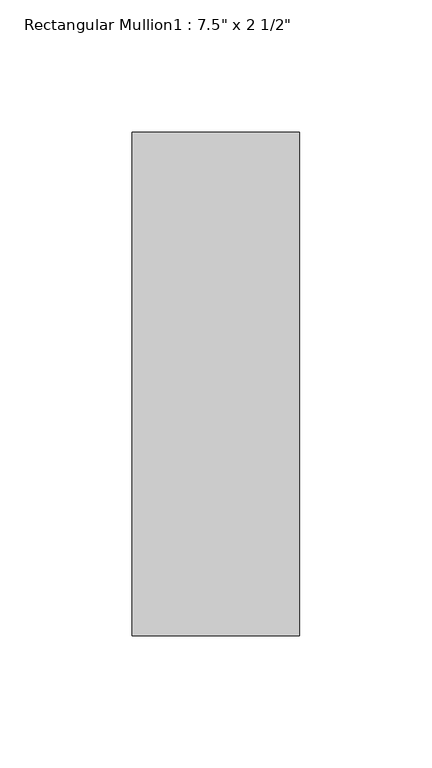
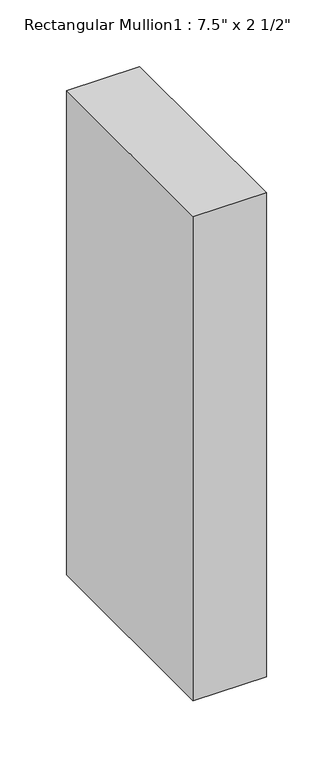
"""IFC4 building model written with IfcOpenShell, lengths in millimetres: member geometry."""

from ifc_helpers import new_model, si_unit, frame, origin, place, context, project, spatial, polyline, outline, extrude, source, transform, mapped, element, save


def member_8678ed76(model_context):
    return source(origin(), model_context, "Body", "SweptSolid", [
        extrude(outline(polyline([(-63.5, 165.1), (0.0, 165.1), (0.0, -25.4), (-63.5, -25.4), (-63.5, 165.1)])), frame((0.0, 0.0, -444.499997), z_axis=(0.0, 0.0, 1.0), x_axis=(1.0, 0.0, 0.0)), (0.0, 0.0, 1.0), 444.499997),
    ])


if __name__ == "__main__":
    model = new_model("IFC4")
    model_context = context("Model", 3, world=origin())
    ifc_project = project(units=[si_unit("LENGTHUNIT", "METRE", prefix="MILLI")], contexts=[model_context])
    site = spatial("IfcSite", under=ifc_project)
    building = spatial("IfcBuilding", under=site)
    placement = place(None, origin())
    member_shape = member_8678ed76(model_context)
    element("IfcMember", 1, ObjectType="Rectangular Mullion1 : 7.5\" x 2 1/2\"", at=placement, inside=building, context=model_context, shape_type="MappedRepresentation", body=[
        mapped(member_shape, transform((0.0, 0.0, 0.0), x_axis=(1.0, 0.0, 0.0), y_axis=(0.0, 1.0, 0.0), z_axis=(0.0, 0.0, 1.0))),
    ])
    save(model, "model.ifc")
